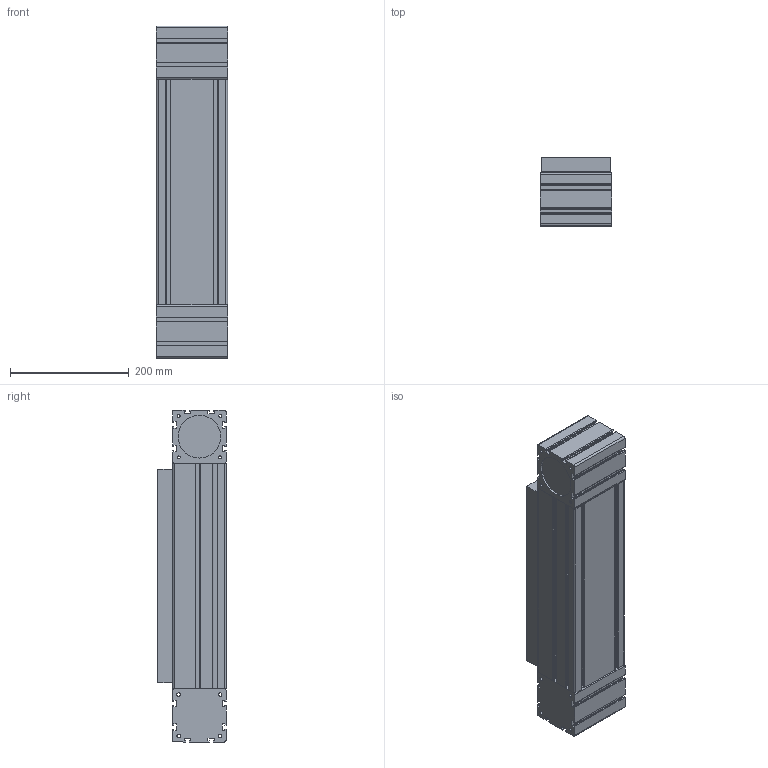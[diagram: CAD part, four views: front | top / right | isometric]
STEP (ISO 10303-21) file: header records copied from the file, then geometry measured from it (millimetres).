
FILE_DESCRIPTION((''),'2;1');
FILE_NAME('C:\Users\disegnatore3\Desktop\alberto_3d\MODELLI PER SITO WEB\ASSI\ML120\ML 120-HPC\FORMATO CAD\ML120HPC.stp','2016-09-12T11:17:24',('disegnatore3'),(''),'Autodesk Inventor 2012','Autodesk Inventor 2012','');
FILE_SCHEMA(('AUTOMOTIVE_DESIGN { 1 0 10303 214 1 1 1 1 }'));
Length unit declared in the file: millimetre
Products named in the file (5): ML120HPC; PR120HP; CR120HP; TM120; TR120
Assembly tree (4 placements, depth 2):
  ML120HPC
    PR120HP
    CR120HP
    TM120
    TR120
Bounding box: 120 x 115 x 560 mm (x, y, z)
Volume: 6640913 mm3; surface area: 530121.4 mm2
Topology: 4 solids, 4 shells, 278 faces, 821 edges, 553 vertices
Faces by surface type: plane 182, cylinder 96
Full cylindrical faces by diameter (mm): 5 x4, 6 x4, 8.376 x12, 72 x2
Entity records: 9283 total; most frequent: CARTESIAN_POINT 1605, ORIENTED_EDGE 1564, DIRECTION 1548, EDGE_CURVE 782, VECTOR 590, LINE 590, VERTEX_POINT 536, AXIS2_PLACEMENT_3D 479
